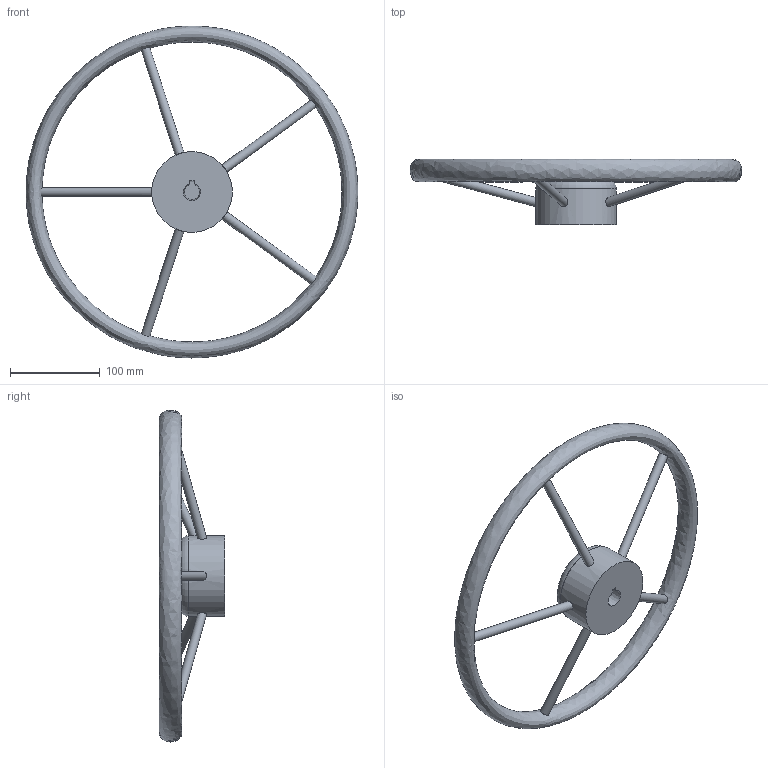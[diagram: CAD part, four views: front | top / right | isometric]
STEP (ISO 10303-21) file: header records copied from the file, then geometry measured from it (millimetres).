
FILE_DESCRIPTION(/* description */ (''),/* implementation_level */ '2;1');
FILE_NAME(/* name */ 'V65.stp',/* time_stamp */ '2021-04-20T12:10:27+02:00',/* author */ (''),/* organization */ (''),/* preprocessor_version */ 'ST-DEVELOPER v16.7',/* originating_system */ 'SIEMENS PLM Software NX 1867',/* authorisation */ '');
FILE_SCHEMA (('AUTOMOTIVE_DESIGN { 1 0 10303 214 3 1 1 1 }'));
Length unit declared in the file: millimetre
Products named in the file (2): 03 MOZZO RIBASSATO V98 SEDE CHIAVETTA LAVORATA; 28672 V65 VOLVO PENTA_stp
Assembly tree (1 placements, depth 2):
  28672 V65 VOLVO PENTA_stp
    03 MOZZO RIBASSATO V98 SEDE CHIAVETTA LAVORATA
Bounding box: 369.99 x 73 x 370 mm (x, y, z)
Volume: 665214.3 mm3; surface area: 137905.4 mm2
Topology: 1 solids, 1 shells, 25 faces, 80 edges, 61 vertices
Faces by surface type: plane 10, cylinder 9, torus 4, cone 1, bspline 1
Full cylindrical faces by diameter (mm): 10 x5, 37 x1, 38.6 x1, 60 x1, 90 x1
Entity records: 1191 total; most frequent: CARTESIAN_POINT 426, ORIENTED_EDGE 160, DIRECTION 139, EDGE_CURVE 80, VERTEX_POINT 61, AXIS2_PLACEMENT_3D 61, EDGE_LOOP 39, CIRCLE 33
